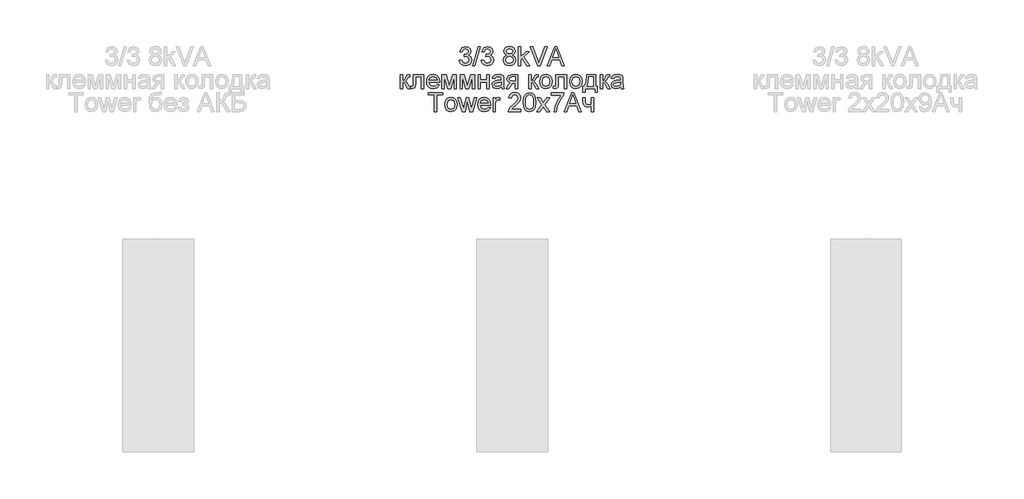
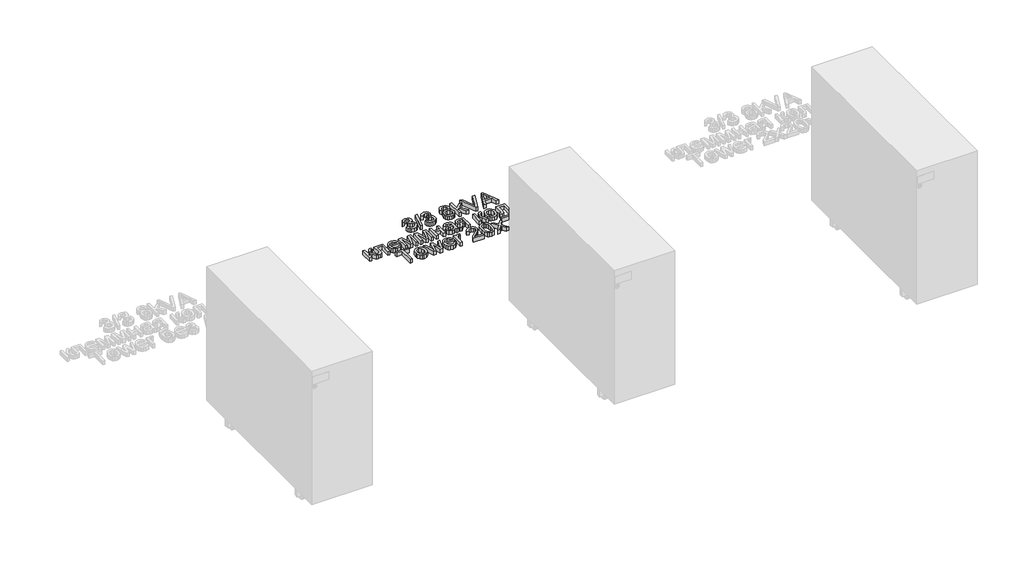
# One storey, part 20 of 74: 1 proxy.
"""IFC4 building model written with IfcOpenShell, lengths in millimetres."""

from ifc_helpers import new_model, si_unit, origin, origin_with_axes, place, context, project, spatial, polyline, outline, extrude, element, save

model = new_model("IFC4")

# Units and contexts
model_context = context("Model", 3, world=origin())
ifc_project = project(units=[si_unit("LENGTHUNIT", "METRE", prefix="MILLI")], contexts=[model_context])

# Site, building, storey
site = spatial("IfcSite", under=ifc_project)
building = spatial("IfcBuilding", under=site)
storey = spatial("IfcBuildingStorey", under=building, Name="Этаж 01", Elevation=0.0)

# Proxy
placement = place(None, origin())
element("IfcBuildingElementProxy", 1, Name="80 мм Arial", ObjectType="80 мм Arial", at=placement, inside=storey, context=model_context, shape_type="SweptSolid", body=[
    extrude(outline(polyline([(2629.0784863, -18752.4422861), (2639.1241174, -18751.1865822), (2644.6668727, -18761.7619633), (2655.0362399, -18764.9993249), (2667.240112, -18760.5455002), (2671.7724182, -18749.5188505), (2667.2793527, -18739.129863), (2655.8602956, -18735.0193948), (2648.8165817, -18736.1181357), (2649.9349429, -18726.0725047), (2651.5438135, -18726.1902269), (2662.9432503, -18723.3060321), (2668.0053065, -18714.4376235), (2664.3362968, -18706.5796641), (2654.8792769, -18703.4698349), (2645.3045349, -18706.6090946), (2640.3798212, -18716.0268737), (2630.3341902, -18714.7711698), (2638.5551265, -18699.0160102), (2654.5261102, -18693.4242039), (2666.6416906, -18696.1808663), (2675.1176918, -18703.7150896), (2678.0509375, -18713.8490123), (2675.2648446, -18723.1098284), (2667.0242879, -18729.7611348), (2677.972456, -18736.6282654), (2681.8180492, -18749.6954339), (2679.8952526, -18759.4860001), (2674.1268629, -18767.6676956), (2665.4203224, -18773.2006408), (2654.6830732, -18775.0449559), (2644.9709885, -18773.470421), (2637.0639782, -18768.7468161), (2631.5653686, -18761.5216138), (2629.0784863, -18752.4422861)])), origin_with_axes(), (0.0, 0.0, 1.0), 20.0),
    extrude(outline(polyline([(2685.5851608, -18773.789252), (2708.1878306, -18693.4242039), (2717.2524429, -18693.4242039), (2694.6497732, -18773.789252), (2685.5851608, -18773.789252)])), origin_with_axes(), (0.0, 0.0, 1.0), 20.0),
    extrude(outline(polyline([(2722.0005732, -18752.4422861), (2732.0462042, -18751.1865822), (2737.5889596, -18761.7619633), (2747.9583268, -18764.9993249), (2760.1621989, -18760.5455002), (2764.694505, -18749.5188505), (2760.2014396, -18739.129863), (2748.7823825, -18735.0193948), (2741.7386685, -18736.1181357), (2742.8570298, -18726.0725047), (2744.4659004, -18726.1902269), (2755.8653372, -18723.3060321), (2760.9273934, -18714.4376235), (2757.2583836, -18706.5796641), (2747.8013638, -18703.4698349), (2738.2266218, -18706.6090946), (2733.3019081, -18716.0268737), (2723.2562771, -18714.7711698), (2731.4772134, -18699.0160102), (2747.4481971, -18693.4242039), (2759.5637775, -18696.1808663), (2768.0397787, -18703.7150896), (2770.9730244, -18713.8490123), (2768.1869314, -18723.1098284), (2759.9463748, -18729.7611348), (2770.8945429, -18736.6282654), (2774.7401361, -18749.6954339), (2772.8173395, -18759.4860001), (2767.0489498, -18767.6676956), (2758.3424093, -18773.2006408), (2747.6051601, -18775.0449559), (2737.8930754, -18773.470421), (2729.9860651, -18768.7468161), (2724.4874555, -18761.5216138), (2722.0005732, -18752.4422861)])), origin_with_axes(), (0.0, 0.0, 1.0), 20.0),
    extrude(outline(polyline([(2829.5594584, -18729.5256904), (2820.4065544, -18723.2864117), (2817.4340679, -18713.5743271), (2819.0527486, -18705.7212727), (2823.908791, -18699.2318343), (2831.4577295, -18694.8761115), (2841.1550989, -18693.4242039), (2850.9113294, -18694.9104472), (2858.5583698, -18699.3691769), (2863.5027039, -18705.9616223), (2865.1508152, -18713.8490123), (2862.2175694, -18723.3158423), (2853.3197302, -18729.5256904), (2864.0030234, -18737.4032702), (2867.6622229, -18750.4017673), (2865.8473384, -18760.0059399), (2860.4026849, -18767.9423808), (2851.995355, -18773.2693121), (2841.2924415, -18775.0449559), (2830.589528, -18773.2619545), (2822.1821982, -18767.9129503), (2816.7375446, -18759.9004804), (2814.9226601, -18750.1270821), (2818.7290125, -18736.8244692), (2829.5594584, -18729.5256904)]), holes=[polyline([(2827.4796989, -18713.8686327), (2831.0407966, -18721.7560226), (2841.4101638, -18724.8168008), (2851.573517, -18721.775643), (2855.1051842, -18714.3199012), (2851.4557948, -18706.5992844), (2841.2924415, -18703.4698349), (2831.0996577, -18706.5306131), (2827.4796989, -18713.8686327)]), polyline([(2824.9682911, -18749.7739154), (2826.645833, -18757.3375692), (2832.5809959, -18762.9980468), (2841.370923, -18764.9993249), (2853.3393506, -18760.7907549), (2857.6165919, -18750.0878413), (2853.202008, -18739.1789139), (2841.0373767, -18734.8624318), (2829.2161019, -18739.1200528), (2824.9682911, -18749.7739154)])]), origin_with_axes(), (0.0, 0.0, 1.0), 20.0),
    extrude(outline(polyline([(2878.9635578, -18773.789252), (2878.9635578, -18693.4242039), (2889.0091889, -18693.4242039), (2889.0091889, -18736.608645), (2911.5333771, -18714.7711698), (2925.4246013, -18714.7711698), (2902.6257278, -18736.8833303), (2926.6803052, -18773.789252), (2914.9473221, -18773.789252), (2895.4250508, -18743.8681831), (2889.0091889, -18750.0878413), (2889.0091889, -18773.789252), (2878.9635578, -18773.789252)])), origin_with_axes(), (0.0, 0.0, 1.0), 20.0),
    extrude(outline(polyline([(2960.4665876, -18773.789252), (2928.4853795, -18693.4242039), (2939.2373439, -18693.4242039), (2960.643171, -18751.3239249), (2964.9792734, -18764.3714729), (2969.2565147, -18751.3239249), (2990.7212029, -18693.4242039), (3001.4731673, -18693.4242039), (2970.845765, -18773.789252), (2960.4665876, -18773.789252)])), origin_with_axes(), (0.0, 0.0, 1.0), 20.0),
    extrude(outline(polyline([(3001.453547, -18773.789252), (3033.5328569, -18693.4242039), (3042.0873396, -18693.4242039), (3074.1666496, -18773.789252), (3063.5520277, -18773.789252), (3054.3500728, -18748.6751745), (3021.2505034, -18748.6751745), (3012.0681688, -18773.789252), (3001.453547, -18773.789252)]), holes=[polyline([(3024.9391335, -18738.6295435), (3050.681063, -18738.6295435), (3043.4411453, -18718.8718278), (3037.8100983, -18703.4698349), (3032.8069031, -18717.145235), (3024.9391335, -18738.6295435)])]), origin_with_axes(), (0.0, 0.0, 1.0), 20.0),
    extrude(outline(polyline([(2379.1934148, -18812.3510241), (2389.2390459, -18812.3510241), (2389.2390459, -18837.4651016), (2395.9688338, -18835.6600273), (2401.4821587, -18825.1435073), (2406.0635158, -18816.0690848), (2410.1053126, -18813.1162186), (2417.4531423, -18812.3510241), (2419.3759389, -18812.3510241), (2419.3759389, -18822.4555162), (2416.6683274, -18822.3966551), (2411.7632341, -18823.4561553), (2408.3100485, -18830.068221), (2404.2584414, -18837.219847), (2398.5783434, -18840.7220836), (2404.9157239, -18844.6314429), (2411.1353822, -18852.8670945), (2421.8873467, -18871.3691063), (2410.4682895, -18871.3691063), (2399.9321492, -18853.259502), (2394.6346485, -18845.5977463), (2389.2390459, -18843.743621), (2389.2390459, -18871.3691063), (2379.1934148, -18871.3691063), (2379.1934148, -18812.3510241)])), origin_with_axes(), (0.0, 0.0, 1.0), 20.0),
    extrude(outline(polyline([(2433.1886815, -18812.3510241), (2478.3940211, -18812.3510241), (2478.3940211, -18871.3102452), (2468.3483901, -18871.3102452), (2468.3483901, -18822.3966551), (2443.2343126, -18822.3966551), (2443.2343126, -18850.5518905), (2442.5574097, -18863.5405774), (2438.839349, -18869.0244717), (2430.0494219, -18871.3691063), (2421.8873467, -18870.8589766), (2421.8873467, -18861.3234753), (2426.3804121, -18861.3234753), (2430.9225285, -18860.7054335), (2432.737413, -18858.7433962), (2433.1886815, -18849.9828996), (2433.1886815, -18812.3510241)])), origin_with_axes(), (0.0, 0.0, 1.0), 20.0),
    extrude(outline(polyline([(2534.7829733, -18853.789252), (2544.6324006, -18855.0449559), (2535.4206355, -18868.0140225), (2518.2626192, -18872.6248102), (2506.4756801, -18870.6357949), (2497.4061626, -18864.6687489), (2491.6230577, -18855.1111747), (2489.695356, -18842.3505745), (2491.642678, -18829.1607787), (2497.4846441, -18819.2966362), (2506.4315342, -18813.1456492), (2517.6936284, -18811.0953202), (2528.6050084, -18813.1407441), (2537.3238116, -18819.2770158), (2543.0406979, -18829.121538), (2544.9463266, -18842.2917134), (2544.8874655, -18844.9993249), (2499.740987, -18844.9993249), (2505.5191869, -18858.046873), (2518.4588229, -18862.5791792), (2528.3082502, -18860.4797992), (2534.7829733, -18853.789252)]), holes=[polyline([(2499.740987, -18834.9536939), (2534.9006956, -18834.9536939), (2530.8785191, -18825.8498408), (2517.6543876, -18821.1409512), (2505.2837424, -18824.8982527), (2499.740987, -18834.9536939)])]), origin_with_axes(), (0.0, 0.0, 1.0), 20.0),
    extrude(outline(polyline([(2554.9919576, -18812.3510241), (2572.2775063, -18812.3510241), (2585.5997396, -18859.5968825), (2599.9618527, -18812.3510241), (2616.5214476, -18812.3510241), (2616.5214476, -18871.3691063), (2606.4758166, -18871.3691063), (2606.4758166, -18823.8485627), (2592.035222, -18871.3691063), (2578.8503313, -18871.3691063), (2565.0375886, -18821.5725994), (2565.0375886, -18871.3691063), (2554.9919576, -18871.3691063), (2554.9919576, -18812.3510241)])), origin_with_axes(), (0.0, 0.0, 1.0), 20.0),
    extrude(outline(polyline([(2631.5898941, -18812.3510241), (2648.8754428, -18812.3510241), (2662.1976761, -18859.5968825), (2676.5597892, -18812.3510241), (2693.1193841, -18812.3510241), (2693.1193841, -18871.3691063), (2683.073753, -18871.3691063), (2683.073753, -18823.8485627), (2668.6331585, -18871.3691063), (2655.4482678, -18871.3691063), (2641.6355251, -18821.5725994), (2641.6355251, -18871.3691063), (2631.5898941, -18871.3691063), (2631.5898941, -18812.3510241)])), origin_with_axes(), (0.0, 0.0, 1.0), 20.0),
    extrude(outline(polyline([(2708.1878306, -18812.3510241), (2718.2334616, -18812.3510241), (2718.2334616, -18834.9536939), (2744.603243, -18834.9536939), (2744.603243, -18812.3510241), (2754.648874, -18812.3510241), (2754.648874, -18871.3691063), (2744.603243, -18871.3691063), (2744.603243, -18844.9993249), (2718.2334616, -18844.9993249), (2718.2334616, -18871.3691063), (2708.1878306, -18871.3691063), (2708.1878306, -18812.3510241)])), origin_with_axes(), (0.0, 0.0, 1.0), 20.0),
    extrude(outline(polyline([(2807.3884369, -18863.834883), (2797.6469216, -18870.6431525), (2786.885147, -18872.6248102), (2772.2973996, -18867.8570595), (2767.2059128, -18855.6728078), (2769.1287094, -18847.7265567), (2774.1809554, -18841.9581671), (2781.2148592, -18838.6619444), (2789.9066844, -18837.1511757), (2807.3295757, -18833.69799), (2807.3884369, -18831.4612675), (2804.6219643, -18824.0447664), (2793.5168331, -18821.1409512), (2783.3534798, -18823.073558), (2778.5072477, -18829.9308784), (2768.4616167, -18828.6751745), (2772.8075293, -18818.864988), (2781.5582157, -18813.1162186), (2794.8117777, -18811.0953202), (2806.9862192, -18812.8807742), (2813.86316, -18817.3640294), (2816.9435585, -18824.1821091), (2817.4340679, -18832.9720362), (2817.4340679, -18845.4702138), (2817.9441976, -18862.9225357), (2819.9454756, -18871.3691063), (2809.8998446, -18871.3691063), (2807.3884369, -18863.834883)]), holes=[polyline([(2807.3884369, -18843.743621), (2791.1820087, -18846.8240196), (2782.5392344, -18848.4525105), (2778.6249699, -18851.1012609), (2777.2515438, -18854.9664744), (2780.2436507, -18860.4013178), (2789.0237677, -18862.5791792), (2799.1871209, -18860.1756835), (2805.7403255, -18854.3582428), (2807.3295757, -18846.5885751), (2807.3884369, -18843.743621)])]), origin_with_axes(), (0.0, 0.0, 1.0), 20.0),
    extrude(outline(polyline([(2876.4521501, -18812.3510241), (2876.4521501, -18871.3691063), (2866.4065191, -18871.3691063), (2866.4065191, -18848.7664365), (2860.932435, -18848.7664365), (2853.4766932, -18850.0417608), (2846.47222, -18858.6158638), (2838.4671078, -18871.3691063), (2826.8518469, -18871.3691063), (2836.9367187, -18855.2411596), (2845.4912014, -18846.8828807), (2833.797459, -18840.7809447), (2829.9911066, -18829.4011283), (2835.1905055, -18817.079534), (2850.2393317, -18812.3510241), (2876.4521501, -18812.3510241)]), holes=[polyline([(2866.4065191, -18822.3966551), (2853.1627672, -18822.3966551), (2842.4402334, -18824.7216693), (2840.0367377, -18830.1663228), (2843.578215, -18836.6508561), (2856.1254436, -18838.7208055), (2866.4065191, -18838.7208055), (2866.4065191, -18822.3966551)])]), origin_with_axes(), (0.0, 0.0, 1.0), 20.0),
    extrude(outline(polyline([(2922.9131935, -18812.3510241), (2932.9588245, -18812.3510241), (2932.9588245, -18837.4651016), (2939.6886125, -18835.6600273), (2945.2019373, -18825.1435073), (2949.7832945, -18816.0690848), (2953.8250913, -18813.1162186), (2961.172921, -18812.3510241), (2963.0957176, -18812.3510241), (2963.0957176, -18822.4555162), (2960.3881061, -18822.3966551), (2955.4830128, -18823.4561553), (2952.0298272, -18830.068221), (2947.9782201, -18837.219847), (2942.2981221, -18840.7220836), (2948.6355026, -18844.6314429), (2954.8551609, -18852.8670945), (2965.6071253, -18871.3691063), (2954.1880682, -18871.3691063), (2943.6519279, -18853.259502), (2938.3544271, -18845.5977463), (2932.9588245, -18843.743621), (2932.9588245, -18871.3691063), (2922.9131935, -18871.3691063), (2922.9131935, -18812.3510241)])), origin_with_axes(), (0.0, 0.0, 1.0), 20.0),
    extrude(outline(polyline([(2969.374237, -18841.8600652), (2971.5471933, -18827.6303896), (2978.0660622, -18817.6289044), (2986.1202254, -18812.7287163), (2995.7636388, -18811.0953202), (3006.3169469, -18813.0843355), (3014.7463497, -18819.0513815), (3020.2719373, -18828.5255691), (3022.1137998, -18841.0360095), (3018.8568179, -18858.9101694), (3009.3703675, -18869.0244717), (2995.7636388, -18872.6248102), (2985.0827982, -18870.6431525), (2976.6632056, -18864.6981795), (2971.1964791, -18855.0253355), (2969.374237, -18841.8600652)]), holes=[polyline([(2979.419868, -18841.8404448), (2984.0698964, -18857.4092109), (2995.7636388, -18862.5791792), (3007.4181404, -18857.3797803), (3012.0681688, -18841.5265189), (3007.3887098, -18826.3109195), (2995.7636388, -18821.1409512), (2984.0698964, -18826.2912992), (2979.419868, -18841.8404448)])]), origin_with_axes(), (0.0, 0.0, 1.0), 20.0),
    extrude(outline(polyline([(3038.4379502, -18812.3510241), (3083.6432898, -18812.3510241), (3083.6432898, -18871.3102452), (3073.5976588, -18871.3102452), (3073.5976588, -18822.3966551), (3048.4835812, -18822.3966551), (3048.4835812, -18850.5518905), (3047.8066783, -18863.5405774), (3044.0886176, -18869.0244717), (3035.2986905, -18871.3691063), (3027.1366153, -18870.8589766), (3027.1366153, -18861.3234753), (3031.6296807, -18861.3234753), (3036.1717971, -18860.7054335), (3037.9866816, -18858.7433962), (3038.4379502, -18849.9828996), (3038.4379502, -18812.3510241)])), origin_with_axes(), (0.0, 0.0, 1.0), 20.0),
    extrude(outline(polyline([(3096.2003285, -18841.8600652), (3098.3732849, -18827.6303896), (3104.8921538, -18817.6289044), (3112.946317, -18812.7287163), (3122.5897303, -18811.0953202), (3133.1430385, -18813.0843355), (3141.5724413, -18819.0513815), (3147.0980288, -18828.5255691), (3148.9398914, -18841.0360095), (3145.6829094, -18858.9101694), (3136.1964591, -18869.0244717), (3122.5897303, -18872.6248102), (3111.9088897, -18870.6431525), (3103.4892971, -18864.6981795), (3098.0225707, -18855.0253355), (3096.2003285, -18841.8600652)]), holes=[polyline([(3106.2459596, -18841.8404448), (3110.895988, -18857.4092109), (3122.5897303, -18862.5791792), (3134.2442319, -18857.3797803), (3138.8942603, -18841.5265189), (3134.2148014, -18826.3109195), (3122.5897303, -18821.1409512), (3110.895988, -18826.2912992), (3106.2459596, -18841.8404448)])]), origin_with_axes(), (0.0, 0.0, 1.0), 20.0),
    extrude(outline(polyline([(3169.0311534, -18812.3510241), (3206.7022697, -18812.3510241), (3206.7022697, -18861.3234753), (3214.236493, -18861.3234753), (3214.236493, -18887.6932567), (3204.1908619, -18887.6932567), (3204.1908619, -18871.3691063), (3162.752634, -18871.3691063), (3162.752634, -18887.6932567), (3152.707003, -18887.6932567), (3152.707003, -18861.3234753), (3158.9855224, -18861.3234753), (3166.7453799, -18842.164181), (3169.0311534, -18812.3510241)]), holes=[polyline([(3177.8210805, -18822.3966551), (3175.4666358, -18845.2838203), (3170.2868573, -18861.3234753), (3196.6566387, -18861.3234753), (3196.6566387, -18822.3966551), (3177.8210805, -18822.3966551)])]), origin_with_axes(), (0.0, 0.0, 1.0), 20.0),
    extrude(outline(polyline([(3225.5378279, -18812.3510241), (3235.5834589, -18812.3510241), (3235.5834589, -18837.4651016), (3242.3132468, -18835.6600273), (3247.8265717, -18825.1435073), (3252.4079288, -18816.0690848), (3256.4497256, -18813.1162186), (3263.7975554, -18812.3510241), (3265.7203519, -18812.3510241), (3265.7203519, -18822.4555162), (3263.0127404, -18822.3966551), (3258.1076472, -18823.4561553), (3254.6544615, -18830.068221), (3250.6028545, -18837.219847), (3244.9227565, -18840.7220836), (3251.260137, -18844.6314429), (3257.4797952, -18852.8670945), (3268.2317597, -18871.3691063), (3256.8127025, -18871.3691063), (3246.2765622, -18853.259502), (3240.9790615, -18845.5977463), (3235.5834589, -18843.743621), (3235.5834589, -18871.3691063), (3225.5378279, -18871.3691063), (3225.5378279, -18812.3510241)])), origin_with_axes(), (0.0, 0.0, 1.0), 20.0),
    extrude(outline(polyline([(3312.1813954, -18863.834883), (3302.4398801, -18870.6431525), (3291.6781055, -18872.6248102), (3277.0903581, -18867.8570595), (3271.9988713, -18855.6728078), (3273.9216679, -18847.7265567), (3278.9739139, -18841.9581671), (3286.0078177, -18838.6619444), (3294.6996429, -18837.1511757), (3312.1225342, -18833.69799), (3312.1813954, -18831.4612675), (3309.4149228, -18824.0447664), (3298.3097916, -18821.1409512), (3288.1464383, -18823.073558), (3283.3002062, -18829.9308784), (3273.2545752, -18828.6751745), (3277.6004878, -18818.864988), (3286.3511742, -18813.1162186), (3299.6047362, -18811.0953202), (3311.7791777, -18812.8807742), (3318.6561185, -18817.3640294), (3321.736517, -18824.1821091), (3322.2270264, -18832.9720362), (3322.2270264, -18845.4702138), (3322.7371561, -18862.9225357), (3324.7384341, -18871.3691063), (3314.6928031, -18871.3691063), (3312.1813954, -18863.834883)]), holes=[polyline([(3312.1813954, -18843.743621), (3295.9749672, -18846.8240196), (3287.3321929, -18848.4525105), (3283.4179284, -18851.1012609), (3282.0445023, -18854.9664744), (3285.0366092, -18860.4013178), (3293.8167262, -18862.5791792), (3303.9800794, -18860.1756835), (3310.533284, -18854.3582428), (3312.1225342, -18846.5885751), (3312.1813954, -18843.743621)])]), origin_with_axes(), (0.0, 0.0, 1.0), 20.0),
    extrude(outline(polyline([(2522.9715087, -18968.9489606), (2522.9715087, -18898.6295435), (2496.6017273, -18898.6295435), (2496.6017273, -18888.5839125), (2559.3869212, -18888.5839125), (2559.3869212, -18898.6295435), (2533.0171398, -18898.6295435), (2533.0171398, -18968.9489606), (2522.9715087, -18968.9489606)])), origin_with_axes(), (0.0, 0.0, 1.0), 20.0),
    extrude(outline(polyline([(2566.9211444, -18939.4399195), (2569.0941008, -18925.2102439), (2575.6129697, -18915.2087587), (2583.6671329, -18910.3085705), (2593.3105462, -18908.6751745), (2603.8638544, -18910.6641898), (2612.2932572, -18916.6312358), (2617.8188447, -18926.1054234), (2619.6607073, -18938.6158638), (2616.4037253, -18956.4900237), (2606.917275, -18966.604326), (2593.3105462, -18970.2046645), (2582.6297056, -18968.2230068), (2574.210113, -18962.2780337), (2568.7433866, -18952.6051898), (2566.9211444, -18939.4399195)]), holes=[polyline([(2576.9667754, -18939.4202991), (2581.6168039, -18954.9890651), (2593.3105462, -18960.1590334), (2604.9650478, -18954.9596346), (2609.6150762, -18939.1063731), (2604.9356173, -18923.8907738), (2593.3105462, -18918.7208055), (2581.6168039, -18923.8711534), (2576.9667754, -18939.4202991)])]), origin_with_axes(), (0.0, 0.0, 1.0), 20.0),
    extrude(outline(polyline([(2640.7526083, -18968.9489606), (2622.799967, -18909.9308784), (2633.2380054, -18909.9308784), (2643.4209791, -18944.3646331), (2646.4621369, -18956.666607), (2648.9539243, -18944.8159017), (2657.0571383, -18909.9308784), (2669.0255659, -18909.9308784), (2677.0895393, -18944.7177998), (2679.3066414, -18955.4501439), (2682.4851419, -18944.1291886), (2692.6877359, -18909.9308784), (2703.1650151, -18909.9308784), (2685.0750311, -18968.9489606), (2672.9300202, -18968.9489606), (2665.2192135, -18934.3386225), (2662.982491, -18923.5474173), (2653.0349619, -18968.9489606), (2640.7526083, -18968.9489606)])), origin_with_axes(), (0.0, 0.0, 1.0), 20.0),
    extrude(outline(polyline([(2751.3918921, -18951.3691063), (2761.2413194, -18952.6248102), (2752.0295542, -18965.5938768), (2734.871538, -18970.2046645), (2723.0845988, -18968.2156491), (2714.0150814, -18962.2486032), (2708.2319764, -18952.6910289), (2706.3042748, -18939.9304288), (2708.2515968, -18926.740633), (2714.0935629, -18916.8764904), (2723.040453, -18910.7255035), (2734.3025471, -18908.6751745), (2745.2139271, -18910.7205984), (2753.9327304, -18916.8568701), (2759.6496166, -18926.7013923), (2761.5552453, -18939.8715677), (2761.4963842, -18942.5791792), (2716.3499058, -18942.5791792), (2722.1281057, -18955.6267273), (2735.0677417, -18960.1590334), (2744.917169, -18958.0596535), (2751.3918921, -18951.3691063)]), holes=[polyline([(2716.3499058, -18932.5335481), (2751.5096143, -18932.5335481), (2747.4874379, -18923.429695), (2734.2633064, -18918.7208055), (2721.8926612, -18922.4781069), (2716.3499058, -18932.5335481)])]), origin_with_axes(), (0.0, 0.0, 1.0), 20.0),
    extrude(outline(polyline([(2771.6008764, -18968.9489606), (2771.6008764, -18909.9308784), (2780.3908035, -18909.9308784), (2780.3908035, -18918.6619444), (2786.6300821, -18910.6175914), (2792.9086015, -18908.6751745), (2802.9934733, -18911.7751934), (2799.6383895, -18920.7809447), (2792.5750552, -18918.7208055), (2786.8949572, -18920.7024632), (2783.2749983, -18926.1961676), (2781.6465074, -18937.9291507), (2781.6465074, -18968.9489606), (2771.6008764, -18968.9489606)])), origin_with_axes(), (0.0, 0.0, 1.0), 20.0),
    extrude(outline(polyline([(2889.6370408, -18958.9033296), (2889.6370408, -18968.9489606), (2836.897478, -18968.9489606), (2837.9765985, -18962.0229689), (2844.0785345, -18951.3592961), (2856.6551936, -18939.7146047), (2873.9996034, -18922.9784265), (2878.3357059, -18911.5986101), (2874.2448581, -18902.3868449), (2863.561565, -18898.6295435), (2852.4270033, -18902.2985532), (2848.1988129, -18912.4422861), (2838.1531818, -18911.1865822), (2840.5885606, -18901.4695925), (2845.8541783, -18894.3719225), (2853.6753495, -18890.030915), (2863.7773891, -18888.5839125), (2873.9530051, -18890.1927831), (2881.759461, -18895.0193948), (2886.7258679, -18902.2298819), (2888.3813369, -18910.9903785), (2886.595883, -18920.5160696), (2880.6607201, -18930.3654969), (2866.2691765, -18944.1291886), (2854.7127767, -18953.7922224), (2850.1804705, -18958.9033296), (2889.6370408, -18958.9033296)])), origin_with_axes(), (0.0, 0.0, 1.0), 20.0),
    extrude(outline(polyline([(2899.6826718, -18929.4139088), (2902.635538, -18906.2912992), (2911.4058447, -18892.9592557), (2926.0524532, -18888.5839125), (2937.7854363, -18891.1738017), (2945.8886504, -18898.6393537), (2950.5975399, -18910.5292997), (2952.4222346, -18929.4139088), (2949.498799, -18952.4384166), (2940.7579228, -18965.7998907), (2926.0524532, -18970.2046645), (2915.6144147, -18968.2916781), (2907.687784, -18962.552719), (2901.6839499, -18948.9607055), (2899.6826718, -18929.4139088)]), holes=[polyline([(2909.7283028, -18929.3942885), (2910.9055252, -18945.1960464), (2914.4371924, -18954.3415928), (2926.0524532, -18960.1590334), (2937.6677141, -18954.3219724), (2941.1993812, -18945.171521), (2942.3766036, -18929.3942885), (2941.238622, -18913.9481498), (2937.8246771, -18904.7314795), (2932.5762273, -18900.1550275), (2925.934731, -18898.6295435), (2914.5941553, -18904.0055257), (2910.944766, -18913.7960919), (2909.7283028, -18929.3942885)])]), origin_with_axes(), (0.0, 0.0, 1.0), 20.0),
    extrude(outline(polyline([(2957.4450501, -18968.9489606), (2978.9097383, -18939.2829565), (2958.700754, -18909.9308784), (2970.7869038, -18909.9308784), (2980.5382293, -18924.057547), (2985.0901558, -18930.7284738), (2989.0338508, -18925.2740101), (3000.138982, -18909.9308784), (3012.2251318, -18909.9308784), (2990.9958881, -18939.2829565), (3011.4403168, -18968.9489606), (2999.354167, -18968.9489606), (2987.0521931, -18951.1140415), (2984.7958502, -18947.8570595), (2969.5312, -18968.9489606), (2957.4450501, -18968.9489606)])), origin_with_axes(), (0.0, 0.0, 1.0), 20.0),
    extrude(outline(polyline([(3017.7188362, -18899.8852474), (3017.7188362, -18889.8396163), (3070.4583991, -18889.8396163), (3070.4583991, -18897.9624508), (3055.4978646, -18919.5742917), (3044.0493769, -18947.1114853), (3040.321506, -18968.9489606), (3030.275875, -18968.9489606), (3034.2686209, -18946.2874297), (3045.2265993, -18920.6730326), (3060.412768, -18899.8852474), (3017.7188362, -18899.8852474)])), origin_with_axes(), (0.0, 0.0, 1.0), 20.0),
    extrude(outline(polyline([(3073.6565199, -18968.9489606), (3105.7358299, -18888.5839125), (3114.2903125, -18888.5839125), (3146.3696225, -18968.9489606), (3135.7550007, -18968.9489606), (3126.5530457, -18943.834883), (3093.4534763, -18943.834883), (3084.2711417, -18968.9489606), (3073.6565199, -18968.9489606)]), holes=[polyline([(3097.1421064, -18933.789252), (3122.8840359, -18933.789252), (3115.6441183, -18914.0315363), (3110.0130712, -18898.6295435), (3105.009876, -18912.3049435), (3097.1421064, -18933.789252)])]), origin_with_axes(), (0.0, 0.0, 1.0), 20.0),
    extrude(outline(polyline([(3152.0791511, -18909.9308784), (3162.1247821, -18909.9308784), (3162.1247821, -18921.2518336), (3162.9390276, -18931.8664555), (3166.853292, -18937.6152248), (3174.6229597, -18940.0677714), (3188.4945635, -18937.0266136), (3188.4945635, -18909.9308784), (3198.5401945, -18909.9308784), (3198.5401945, -18968.9489606), (3188.4945635, -18968.9489606), (3188.4945635, -18946.6602168), (3171.9349686, -18950.1134024), (3160.545342, -18946.513064), (3153.8449846, -18937.6937063), (3152.0791511, -18926.215788), (3152.0791511, -18909.9308784)])), origin_with_axes(), (0.0, 0.0, 1.0), 20.0),
])

save(model, "model.ifc")
